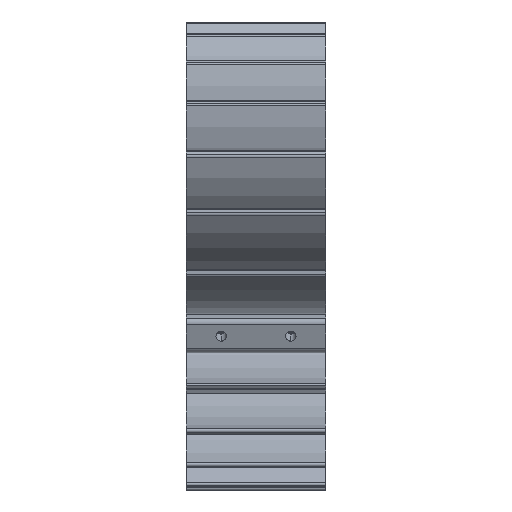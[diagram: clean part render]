
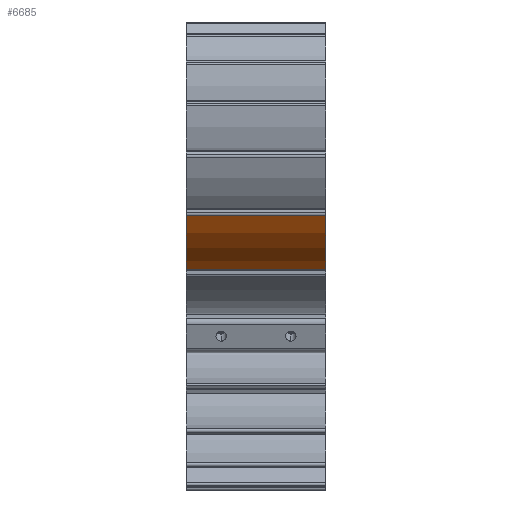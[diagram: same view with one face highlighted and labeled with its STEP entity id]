
A CAD part, left-side view. The second image highlights one B-rep face of the part: STEP entity #6685.
In plain terms, the highlighted cylindrical face has radius 40 mm (diameter 80 mm), a partial arc.
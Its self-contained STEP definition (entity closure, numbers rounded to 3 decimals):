
#367=CARTESIAN_POINT('',(-32.086,0.,32.814));
#368=DIRECTION('',(0.,1.,0.));
#369=DIRECTION('',(0.236,0.,-0.972));
#370=AXIS2_PLACEMENT_3D('',#367,#368,#369);
#1312=CARTESIAN_POINT('',(-32.086,40.,32.814));
#1313=DIRECTION('',(0.,1.,0.));
#1314=DIRECTION('',(0.236,0.,-0.972));
#1315=AXIS2_PLACEMENT_3D('',#1312,#1313,#1314);
#2242=DIRECTION('',(0.,-1.,0.));
#2243=VECTOR('',#2242,40.);
#2244=CARTESIAN_POINT('',(-66.021,40.,11.638));
#2245=LINE('',#2244,#2243);
#2246=DIRECTION('',(0.,-1.,0.));
#2247=VECTOR('',#2246,40.);
#2248=CARTESIAN_POINT('',(-22.659,40.,-6.06));
#2249=LINE('',#2248,#2247);
#3822=CARTESIAN_POINT('',(-22.659,40.,-6.06));
#3823=CARTESIAN_POINT('',(-22.659,0.,-6.06));
#3824=VERTEX_POINT('',#3822);
#3825=VERTEX_POINT('',#3823);
#4211=CARTESIAN_POINT('',(-66.021,0.,11.638));
#4213=VERTEX_POINT('',#4211);
#4214=CARTESIAN_POINT('',(-66.021,40.,11.638));
#4215=VERTEX_POINT('',#4214);
#6673=CARTESIAN_POINT('',(-32.086,0.,32.814));
#6674=DIRECTION('',(0.,1.,0.));
#6675=DIRECTION('',(0.259,0.,-0.966));
#6676=AXIS2_PLACEMENT_3D('',#6673,#6674,#6675);
#6677=CYLINDRICAL_SURFACE('',#6676,40.);
#6678=ORIENTED_EDGE('',*,*,#6666,.T.);
#6679=ORIENTED_EDGE('',*,*,#5123,.F.);
#6681=ORIENTED_EDGE('',*,*,#6680,.F.);
#6682=ORIENTED_EDGE('',*,*,#5749,.T.);
#6683=EDGE_LOOP('',(#6678,#6679,#6681,#6682));
#6684=FACE_OUTER_BOUND('',#6683,.F.);
#6685=ADVANCED_FACE('',(#6684),#6677,.T.);
#371=CIRCLE('',#370,40.);
#1316=CIRCLE('',#1315,40.);
#5123=EDGE_CURVE('',#3825,#4213,#371,.T.);
#5749=EDGE_CURVE('',#3824,#4215,#1316,.T.);
#6666=EDGE_CURVE('',#4215,#4213,#2245,.T.);
#6680=EDGE_CURVE('',#3824,#3825,#2249,.T.);
